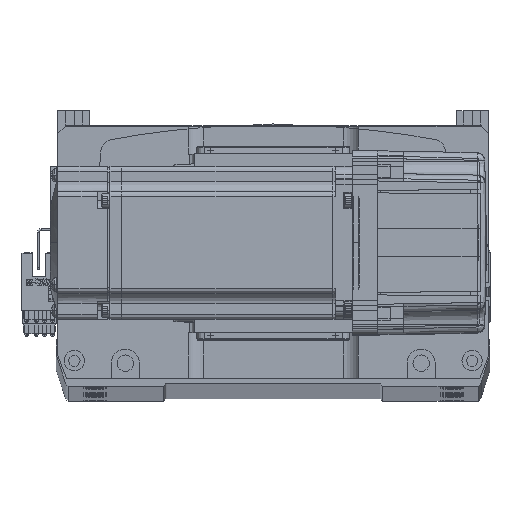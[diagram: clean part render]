
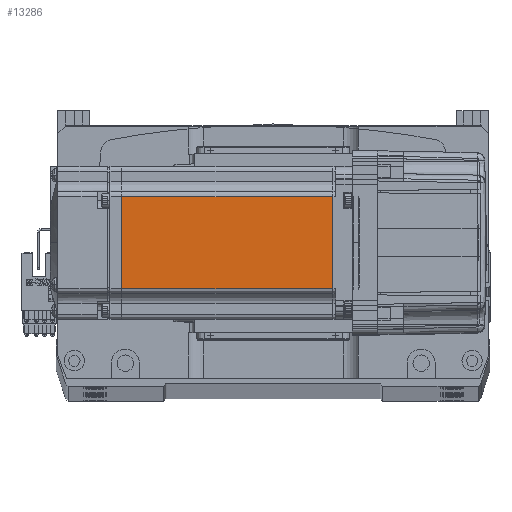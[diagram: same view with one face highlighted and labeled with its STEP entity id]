
A CAD part, top view. The second image highlights one B-rep face of the part: STEP entity #13286.
In plain terms, the highlighted planar face has unit normal (0, 0, 1).
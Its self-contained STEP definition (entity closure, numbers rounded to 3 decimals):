
#3311 = ORIENTED_EDGE ( 'NONE', *, *, #57198, .F. ) ;
#10309 = VERTEX_POINT ( 'NONE', #50685 ) ;
#12597 = ORIENTED_EDGE ( 'NONE', *, *, #61527, .F. ) ;
#13286 = ADVANCED_FACE ( 'NONE', ( #57677 ), #51788, .T. ) ;
#13635 = EDGE_LOOP ( 'NONE', ( #3311, #28541, #14699, #12597 ) ) ;
#13915 = CARTESIAN_POINT ( 'NONE',  ( -6.5, -25., 30. ) ) ;
#14699 = ORIENTED_EDGE ( 'NONE', *, *, #22887, .T. ) ;
#16470 = LINE ( 'NONE', #67975, #47932 ) ;
#16540 = VERTEX_POINT ( 'NONE', #20080 ) ;
#18781 = DIRECTION ( 'NONE',  ( -1., 0., 0. ) ) ;
#19979 = LINE ( 'NONE', #69104, #66325 ) ;
#20080 = CARTESIAN_POINT ( 'NONE',  ( -7.75, -18., 30. ) ) ;
#21615 = DIRECTION ( 'NONE',  ( -1., 0., 0. ) ) ;
#22417 = VECTOR ( 'NONE', #56351, 1000. ) ;
#22887 = EDGE_CURVE ( 'NONE', #23952, #45820, #16470, .T. ) ;
#23952 = VERTEX_POINT ( 'NONE', #41386 ) ;
#25546 = LINE ( 'NONE', #33104, #53455 ) ;
#28541 = ORIENTED_EDGE ( 'NONE', *, *, #28658, .T. ) ;
#28658 = EDGE_CURVE ( 'NONE', #10309, #23952, #25546, .T. ) ;
#29601 = DIRECTION ( 'NONE',  ( 0., 0., 1. ) ) ;
#33104 = CARTESIAN_POINT ( 'NONE',  ( -6.5, 18., 30. ) ) ;
#41386 = CARTESIAN_POINT ( 'NONE',  ( -90.45, 18., 30. ) ) ;
#45820 = VERTEX_POINT ( 'NONE', #47414 ) ;
#47414 = CARTESIAN_POINT ( 'NONE',  ( -90.45, -18., 30. ) ) ;
#47932 = VECTOR ( 'NONE', #51541, 1000. ) ;
#50685 = CARTESIAN_POINT ( 'NONE',  ( -7.75, 18., 30. ) ) ;
#51541 = DIRECTION ( 'NONE',  ( 0., -1., 0. ) ) ;
#51788 = PLANE ( 'NONE',  #63334 ) ;
#53455 = VECTOR ( 'NONE', #21615, 1000. ) ;
#56351 = DIRECTION ( 'NONE',  ( 0., -1., 0. ) ) ;
#56509 = LINE ( 'NONE', #61269, #22417 ) ;
#57198 = EDGE_CURVE ( 'NONE', #10309, #16540, #56509, .T. ) ;
#57677 = FACE_OUTER_BOUND ( 'NONE', #13635, .T. ) ;
#61269 = CARTESIAN_POINT ( 'NONE',  ( -7.75, 0., 30. ) ) ;
#61527 = EDGE_CURVE ( 'NONE', #16540, #45820, #19979, .T. ) ;
#62800 = DIRECTION ( 'NONE',  ( 1., 0., 0. ) ) ;
#63334 = AXIS2_PLACEMENT_3D ( 'NONE', #13915, #29601, #62800 ) ;
#66325 = VECTOR ( 'NONE', #18781, 1000. ) ;
#67975 = CARTESIAN_POINT ( 'NONE',  ( -90.45, 0., 30. ) ) ;
#69104 = CARTESIAN_POINT ( 'NONE',  ( -6.5, -18., 30. ) ) ;
